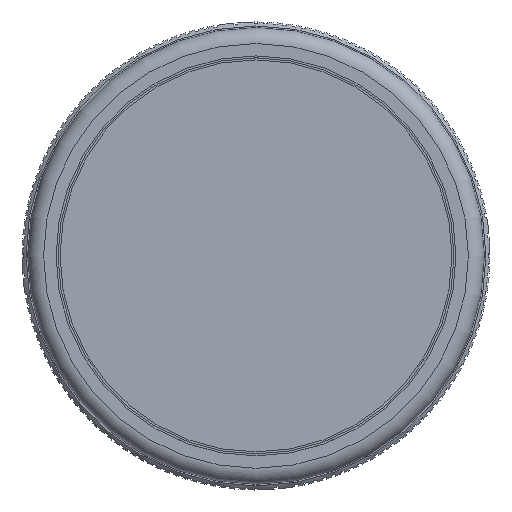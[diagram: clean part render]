
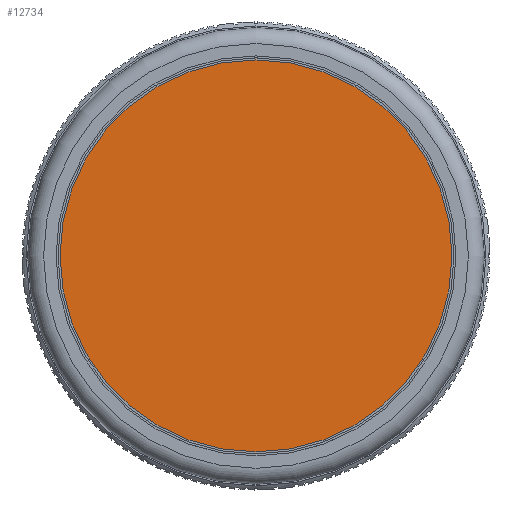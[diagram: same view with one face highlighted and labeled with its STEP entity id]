
A CAD part, top view. The second image highlights one B-rep face of the part: STEP entity #12734.
In plain terms, the highlighted planar face has unit normal (0, 0, 1) as drawn and (-1, 0, 0) by its records, which use the part's own axes.
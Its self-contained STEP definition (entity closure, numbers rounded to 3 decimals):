
#524=PLANE('',#13980);
#1337=FACE_OUTER_BOUND('',#2001,.T.);
#2001=EDGE_LOOP('',(#12076));
#2504=CIRCLE('',#13979,24.501);
#6463=VERTEX_POINT('',#24635);
#8333=EDGE_CURVE('',#6463,#6463,#2504,.T.);
#12076=ORIENTED_EDGE('',*,*,#8333,.F.);
#12734=ADVANCED_FACE('',(#1337),#524,.T.);
#13979=AXIS2_PLACEMENT_3D('',#24636,#17634,#17635);
#13980=AXIS2_PLACEMENT_3D('',#24638,#17637,#17638);
#17634=DIRECTION('center_axis',(1.,0.,0.));
#17635=DIRECTION('ref_axis',(0.,0.,1.));
#17637=DIRECTION('center_axis',(-1.,0.,0.));
#17638=DIRECTION('ref_axis',(0.,0.,1.));
#24635=CARTESIAN_POINT('',(169.936,108.808,-24.501));
#24636=CARTESIAN_POINT('Origin',(169.936,108.808,0.));
#24638=CARTESIAN_POINT('Origin',(169.936,108.808,0.));
